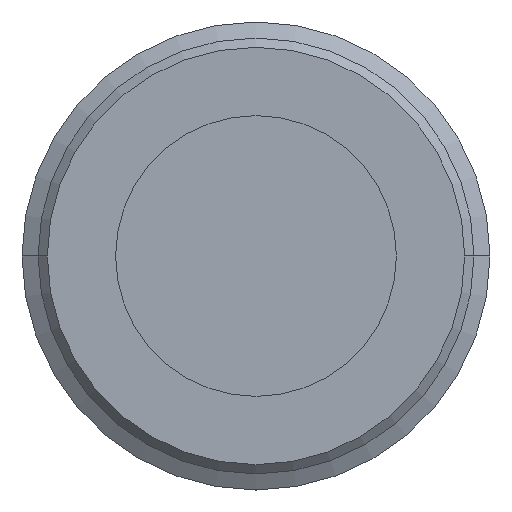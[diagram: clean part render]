
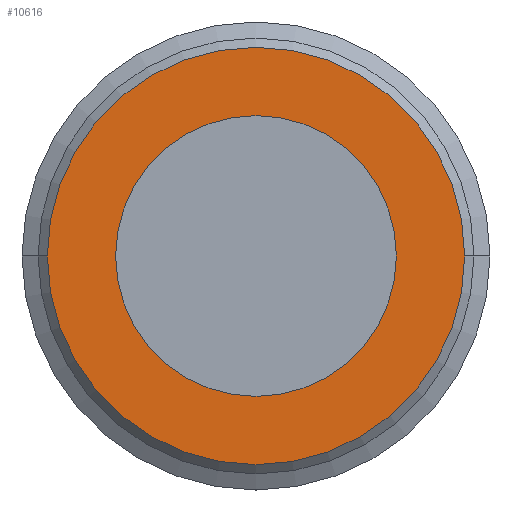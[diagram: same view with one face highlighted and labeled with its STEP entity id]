
A CAD part, front view. The second image highlights one B-rep face of the part: STEP entity #10616.
In plain terms, the highlighted planar face has unit normal (0, -1, 0).
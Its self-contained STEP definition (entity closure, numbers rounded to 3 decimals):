
#199 = VERTEX_POINT('',#200);
#200 = CARTESIAN_POINT('',(-2.229,-13.,0.));
#216 = VERTEX_POINT('',#217);
#217 = CARTESIAN_POINT('',(2.229,-13.,0.));
#223 = EDGE_CURVE('',#216,#199,#224,.T.);
#224 = CIRCLE('',#225,2.229);
#225 = AXIS2_PLACEMENT_3D('',#226,#227,#228);
#226 = CARTESIAN_POINT('',(0.,-13.,0.));
#227 = DIRECTION('',(0.,1.,0.));
#228 = DIRECTION('',(-1.,0.,0.));
#10585 = EDGE_CURVE('',#199,#216,#10586,.T.);
#10586 = CIRCLE('',#10587,2.229);
#10587 = AXIS2_PLACEMENT_3D('',#10588,#10589,#10590);
#10588 = CARTESIAN_POINT('',(0.,-13.,0.));
#10589 = DIRECTION('',(0.,1.,0.));
#10590 = DIRECTION('',(-1.,0.,0.));
#10616 = ADVANCED_FACE('',(#10617),#10621,.T.);
#10617 = FACE_BOUND('',#10618,.T.);
#10618 = EDGE_LOOP('',(#10619,#10620));
#10619 = ORIENTED_EDGE('',*,*,#223,.F.);
#10620 = ORIENTED_EDGE('',*,*,#10585,.F.);
#10621 = PLANE('',#10622);
#10622 = AXIS2_PLACEMENT_3D('',#10623,#10624,#10625);
#10623 = CARTESIAN_POINT('',(0.,-13.,0.));
#10624 = DIRECTION('',(0.,-1.,0.));
#10625 = DIRECTION('',(1.,0.,0.));
